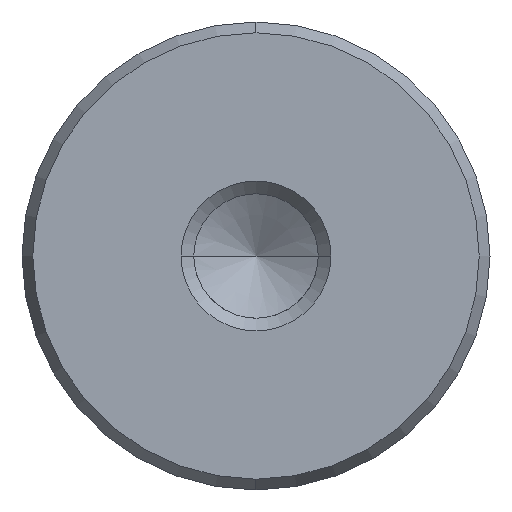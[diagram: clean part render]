
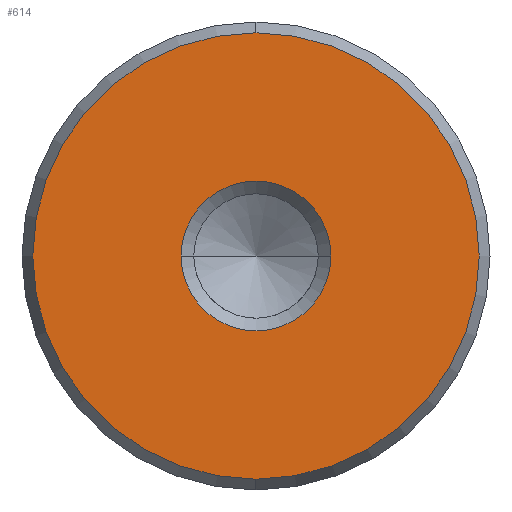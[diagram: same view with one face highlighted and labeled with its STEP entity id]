
A CAD part, left-side view. The second image highlights one B-rep face of the part: STEP entity #614.
In plain terms, the highlighted planar face has unit normal (-1, 0, 0).
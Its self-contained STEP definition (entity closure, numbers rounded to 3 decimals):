
#528=CARTESIAN_POINT('Vertex',(0.,0.,-11.923)) ;
#531=CARTESIAN_POINT('Axis2P3D Location',(0.,0.,0.)) ;
#535=CARTESIAN_POINT('Vertex',(0.,11.923,0.)) ;
#538=CARTESIAN_POINT('Axis2P3D Location',(0.,0.,0.)) ;
#542=CARTESIAN_POINT('Vertex',(0.,0.,11.923)) ;
#564=CARTESIAN_POINT('Axis2P3D Location',(0.,0.,0.)) ;
#568=CARTESIAN_POINT('Vertex',(0.,-11.923,0.)) ;
#571=CARTESIAN_POINT('Axis2P3D Location',(0.,0.,0.)) ;
#585=CARTESIAN_POINT('Axis2P3D Location',(0.,0.,0.)) ;
#596=CARTESIAN_POINT('Axis2P3D Location',(0.,0.,0.)) ;
#600=CARTESIAN_POINT('Vertex',(0.,4.,0.)) ;
#602=CARTESIAN_POINT('Vertex',(0.,-4.,0.)) ;
#605=CARTESIAN_POINT('Axis2P3D Location',(0.,0.,0.)) ;
#532=DIRECTION('Axis2P3D Direction',(1.,0.,-0.)) ;
#539=DIRECTION('Axis2P3D Direction',(1.,0.,-0.)) ;
#565=DIRECTION('Axis2P3D Direction',(1.,0.,-0.)) ;
#572=DIRECTION('Axis2P3D Direction',(1.,0.,-0.)) ;
#586=DIRECTION('Axis2P3D Direction',(1.,0.,-0.)) ;
#587=DIRECTION('Axis2P3D XDirection',(-0.,0.,-1.)) ;
#597=DIRECTION('Axis2P3D Direction',(1.,0.,-0.)) ;
#606=DIRECTION('Axis2P3D Direction',(1.,0.,-0.)) ;
#533=AXIS2_PLACEMENT_3D('Circle Axis2P3D',#531,#532,$) ;
#540=AXIS2_PLACEMENT_3D('Circle Axis2P3D',#538,#539,$) ;
#566=AXIS2_PLACEMENT_3D('Circle Axis2P3D',#564,#565,$) ;
#573=AXIS2_PLACEMENT_3D('Circle Axis2P3D',#571,#572,$) ;
#588=AXIS2_PLACEMENT_3D('Plane Axis2P3D',#585,#586,#587) ;
#598=AXIS2_PLACEMENT_3D('Circle Axis2P3D',#596,#597,$) ;
#607=AXIS2_PLACEMENT_3D('Circle Axis2P3D',#605,#606,$) ;
#591=ORIENTED_EDGE('',*,*,#537,.F.) ;
#592=ORIENTED_EDGE('',*,*,#575,.F.) ;
#593=ORIENTED_EDGE('',*,*,#570,.F.) ;
#594=ORIENTED_EDGE('',*,*,#544,.F.) ;
#611=ORIENTED_EDGE('',*,*,#604,.T.) ;
#612=ORIENTED_EDGE('',*,*,#609,.T.) ;
#613=FACE_BOUND('',#610,.T.) ;
#614=ADVANCED_FACE('720-25x280',(#595,#613),#589,.F.) ;
#534=CIRCLE('generated circle',#533,11.923) ;
#541=CIRCLE('generated circle',#540,11.923) ;
#567=CIRCLE('generated circle',#566,11.923) ;
#574=CIRCLE('generated circle',#573,11.923) ;
#599=CIRCLE('generated circle',#598,4.) ;
#608=CIRCLE('generated circle',#607,4.) ;
#537=EDGE_CURVE('',#529,#536,#534,.T.) ;
#544=EDGE_CURVE('',#536,#543,#541,.T.) ;
#570=EDGE_CURVE('',#543,#569,#567,.T.) ;
#575=EDGE_CURVE('',#569,#529,#574,.T.) ;
#604=EDGE_CURVE('',#601,#603,#599,.T.) ;
#609=EDGE_CURVE('',#603,#601,#608,.T.) ;
#590=EDGE_LOOP('',(#591,#592,#593,#594)) ;
#610=EDGE_LOOP('',(#611,#612)) ;
#595=FACE_OUTER_BOUND('',#590,.T.) ;
#589=PLANE('Plane',#588) ;
#529=VERTEX_POINT('',#528) ;
#536=VERTEX_POINT('',#535) ;
#543=VERTEX_POINT('',#542) ;
#569=VERTEX_POINT('',#568) ;
#601=VERTEX_POINT('',#600) ;
#603=VERTEX_POINT('',#602) ;
